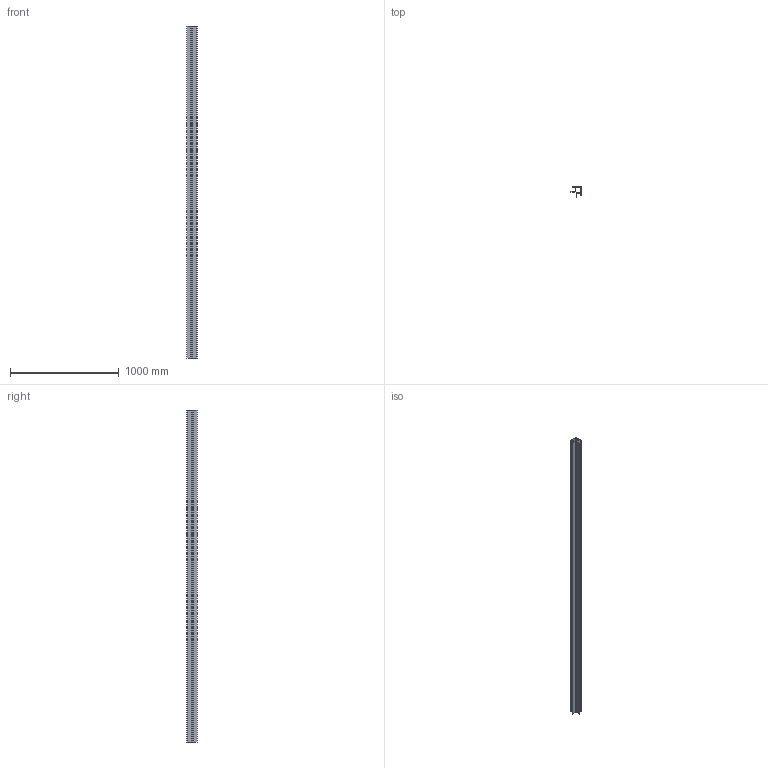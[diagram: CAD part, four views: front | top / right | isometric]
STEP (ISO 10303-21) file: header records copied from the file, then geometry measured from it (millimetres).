
FILE_DESCRIPTION (( 'STEP AP203' ), '1' );
FILE_NAME ('M21B.STEP', '2018-06-18T18:55:30', ( 'Michael Moliner' ), ( '' ), 'SwSTEP 2.0', 'SolidWorks 2018', '' );
FILE_SCHEMA (( 'CONFIG_CONTROL_DESIGN' ));
Length unit declared in the file: inch
Products named in the file (2): M21B
Bounding box: 92.42 x 92.42 x 3048 mm (x, y, z)
Volume: 547187.3 mm3; surface area: 2157736.6 mm2
Topology: 1 solids, 1 shells, 36 faces, 102 edges, 68 vertices
Faces by surface type: plane 20, cylinder 16
Entity records: 1335 total; most frequent: DIRECTION 210, CARTESIAN_POINT 208, ORIENTED_EDGE 204, EDGE_CURVE 102, LINE 70, VECTOR 70, AXIS2_PLACEMENT_3D 70, VERTEX_POINT 68
